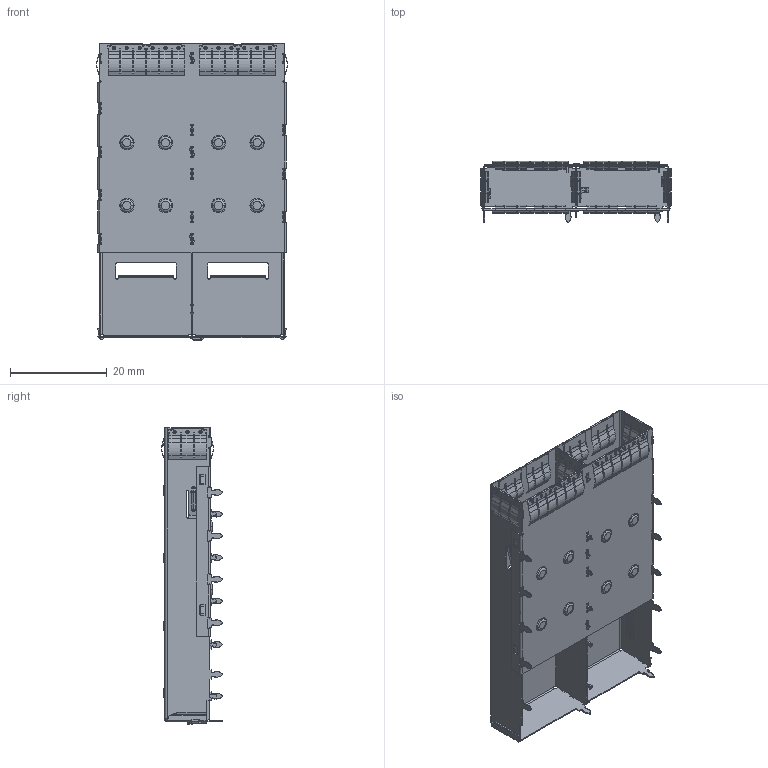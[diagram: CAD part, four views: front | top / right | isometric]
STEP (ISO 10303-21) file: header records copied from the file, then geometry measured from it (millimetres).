
FILE_DESCRIPTION (( 'STEP AP214' ), '1' );
FILE_NAME ('SZ20-0000010000-0000-X.STEP', '2021-06-17T05:48:24', ( '' ), ( '' ), 'SwSTEP 2.0', 'SolidWorks 2012', '' );
FILE_SCHEMA (( 'AUTOMOTIVE_DESIGN' ));
Length unit declared in the file: millimetre
Products named in the file (8): SZ10-S130_1x1 top&bottom spring ass''y; SZ10-S130_1xN side spring ass''y; SQ20-S120_w\o EMI spring&w\Emboss; SZ20-S130_pin to pin-ass''y; SZ20-S110-1_2.25-2 back Leg-圓孔-ass''y; SZ10-S140_1xN mid spring ass''y; SZ20-0000010000-0000-X; QSFP28A 1xN mid ground_pin to pin
Assembly tree (11 placements, depth 3):
  SZ20-0000010000-0000-X
    SZ20-S110-1_2.25-2 back Leg-圓孔-ass''y
    SQ20-S120_w\o EMI spring&w\Emboss
    SZ10-S130_1x1 top&bottom spring ass''y  x4
    SZ10-S130_1xN side spring ass''y  x2
    QSFP28A 1xN mid ground_pin to pin
      SZ20-S130_pin to pin-ass''y
      SZ10-S140_1xN mid spring ass''y
Bounding box: 39.55 x 12.6 x 61.41 mm (x, y, z)
Volume: 1562.3 mm3; surface area: 14433.7 mm2
Topology: 10 solids, 10 shells, 3953 faces, 10105 edges, 6152 vertices
Faces by surface type: plane 1950, cylinder 1531, torus 274, sphere 132, bspline 66
Entity records: 90694 total; most frequent: CARTESIAN_POINT 19723, DIRECTION 15280, ORIENTED_EDGE 14760, EDGE_CURVE 7380, AXIS2_PLACEMENT_3D 5513, VERTEX_POINT 4592, VECTOR 4254, LINE 4254
